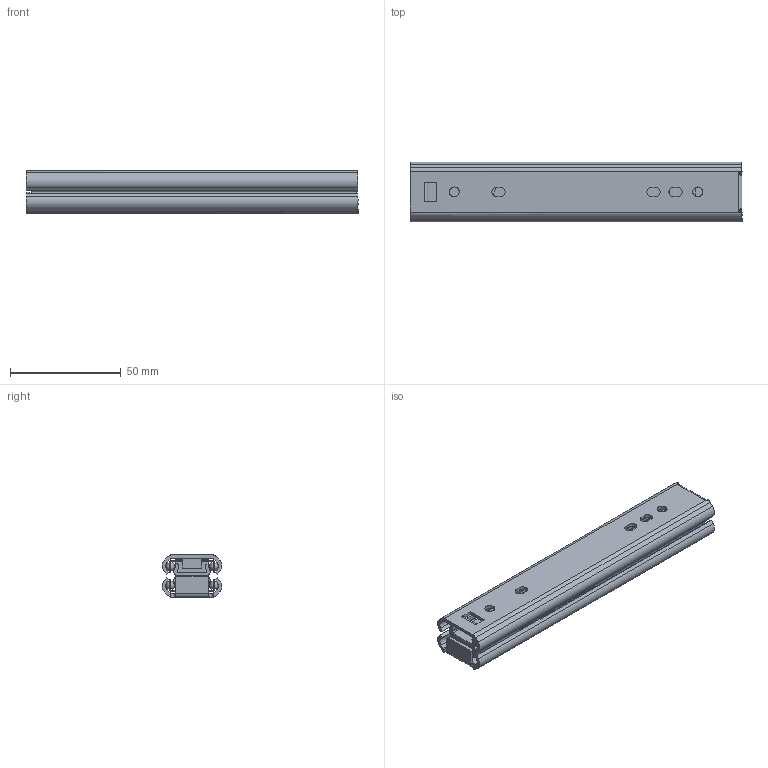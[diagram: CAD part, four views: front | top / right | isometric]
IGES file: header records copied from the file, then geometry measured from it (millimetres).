
Global section: file name: DR_L7-150; native system: Autodesk Inventor 2015; preprocessor: unknown; author: Administrator; date: 20170929.083042; units: millimetre
Bounding box: 150 x 27 x 19.08 mm (x, y, z)
Volume: 28132.3 mm3; surface area: 44404.3 mm2
Topology: 6 solids, 6 shells, 302 faces, 850 edges, 560 vertices
Faces by surface type: bspline 302
